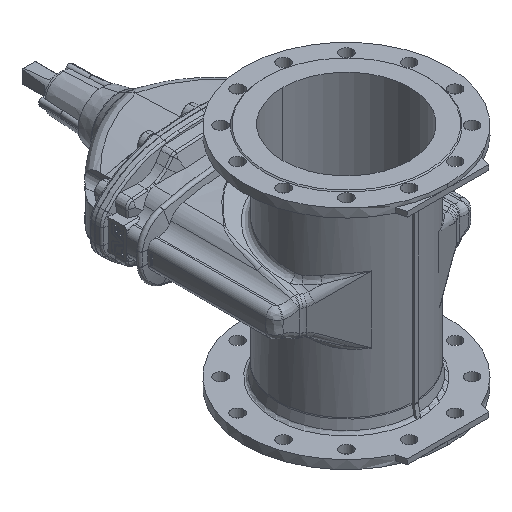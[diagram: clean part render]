
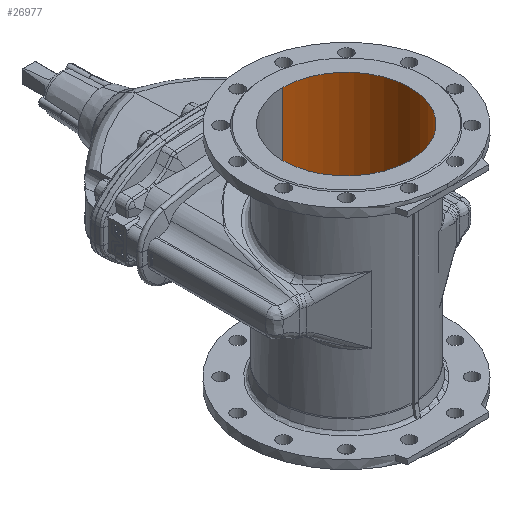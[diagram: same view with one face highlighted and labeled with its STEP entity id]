
A CAD part, isometric view. The second image highlights one B-rep face of the part: STEP entity #26977.
In plain terms, the highlighted cylindrical face has radius 125 mm (diameter 250 mm), a partial arc.
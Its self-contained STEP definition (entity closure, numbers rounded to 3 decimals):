
#1340 = VERTEX_POINT ( 'NONE', #31653 ) ;
#3678 = CYLINDRICAL_SURFACE ( 'NONE', #19926, 125. ) ;
#4233 = CARTESIAN_POINT ( 'NONE',  ( 0., 0., -225. ) ) ;
#4861 = DIRECTION ( 'NONE',  ( 0., 1., 0. ) ) ;
#6131 = DIRECTION ( 'NONE',  ( 0., 0., -1. ) ) ;
#8007 = VECTOR ( 'NONE', #30102, 1000. ) ;
#8269 = AXIS2_PLACEMENT_3D ( 'NONE', #4233, #18912, #4861 ) ;
#9143 = DIRECTION ( 'NONE',  ( 0., 1., 0. ) ) ;
#10592 = CARTESIAN_POINT ( 'NONE',  ( 0., 125., 225. ) ) ;
#10754 = LINE ( 'NONE', #10592, #8007 ) ;
#12775 = VECTOR ( 'NONE', #6131, 1000. ) ;
#13452 = CARTESIAN_POINT ( 'NONE',  ( 0., 125., -225. ) ) ;
#13717 = LINE ( 'NONE', #17920, #12775 ) ;
#14361 = CARTESIAN_POINT ( 'NONE',  ( 0., 0., 225. ) ) ;
#14806 = VERTEX_POINT ( 'NONE', #13452 ) ;
#14985 = CIRCLE ( 'NONE', #8269, 125. ) ;
#15391 = AXIS2_PLACEMENT_3D ( 'NONE', #14361, #31433, #26261 ) ;
#16104 = EDGE_CURVE ( 'NONE', #1340, #26756, #13717, .T. ) ;
#16203 = EDGE_CURVE ( 'NONE', #30056, #1340, #27716, .T. ) ;
#16756 = EDGE_CURVE ( 'NONE', #14806, #26756, #14985, .T. ) ;
#17920 = CARTESIAN_POINT ( 'NONE',  ( 0., -125., 225. ) ) ;
#17955 = CARTESIAN_POINT ( 'NONE',  ( 0., 125., 225. ) ) ;
#18520 = DIRECTION ( 'NONE',  ( 0., 0., -1. ) ) ;
#18712 = ORIENTED_EDGE ( 'NONE', *, *, #16104, .F. ) ;
#18827 = CARTESIAN_POINT ( 'NONE',  ( 0., 0., 225. ) ) ;
#18912 = DIRECTION ( 'NONE',  ( 0., 0., -1. ) ) ;
#19926 = AXIS2_PLACEMENT_3D ( 'NONE', #18827, #18520, #9143 ) ;
#20936 = FACE_OUTER_BOUND ( 'NONE', #29159, .T. ) ;
#24403 = EDGE_CURVE ( 'NONE', #30056, #14806, #10754, .T. ) ;
#26261 = DIRECTION ( 'NONE',  ( 0., 1., 0. ) ) ;
#26583 = ORIENTED_EDGE ( 'NONE', *, *, #24403, .T. ) ;
#26756 = VERTEX_POINT ( 'NONE', #29047 ) ;
#26977 = ADVANCED_FACE ( 'NONE', ( #20936 ), #3678, .F. ) ;
#27716 = CIRCLE ( 'NONE', #15391, 125. ) ;
#29047 = CARTESIAN_POINT ( 'NONE',  ( 0., -125., -225. ) ) ;
#29159 = EDGE_LOOP ( 'NONE', ( #18712, #30846, #26583, #31128 ) ) ;
#30056 = VERTEX_POINT ( 'NONE', #17955 ) ;
#30102 = DIRECTION ( 'NONE',  ( 0., 0., -1. ) ) ;
#30846 = ORIENTED_EDGE ( 'NONE', *, *, #16203, .F. ) ;
#31128 = ORIENTED_EDGE ( 'NONE', *, *, #16756, .T. ) ;
#31433 = DIRECTION ( 'NONE',  ( 0., 0., -1. ) ) ;
#31653 = CARTESIAN_POINT ( 'NONE',  ( 0., -125., 225. ) ) ;
